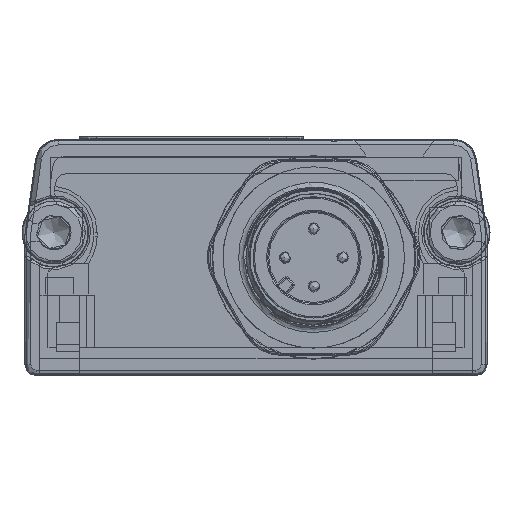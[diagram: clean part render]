
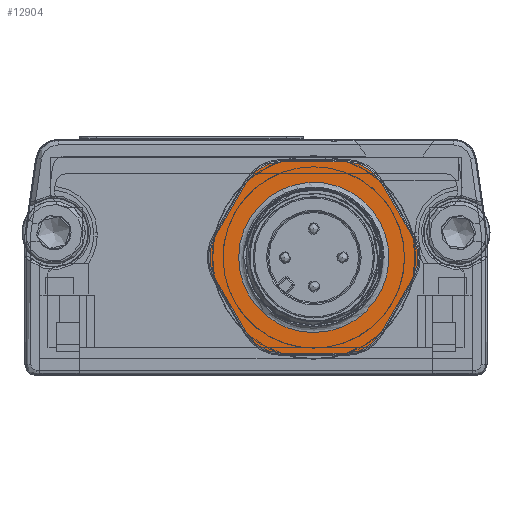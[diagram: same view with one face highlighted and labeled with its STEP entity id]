
A CAD part, front view. The second image highlights one B-rep face of the part: STEP entity #12904.
In plain terms, the highlighted planar face has unit normal (0, -1, 0).
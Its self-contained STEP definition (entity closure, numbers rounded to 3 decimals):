
#168=FACE_BOUND('',#2375,.T.);
#754=CIRCLE('',#13980,6.5);
#755=CIRCLE('',#13981,6.5);
#784=CIRCLE('',#14034,3.6);
#789=CIRCLE('',#14041,3.6);
#792=CIRCLE('',#14046,3.6);
#795=CIRCLE('',#14051,3.6);
#799=CIRCLE('',#14057,3.6);
#803=CIRCLE('',#14063,3.6);
#1089=PLANE('',#14070);
#1670=FACE_OUTER_BOUND('',#2374,.T.);
#2374=EDGE_LOOP('',(#10683,#10684,#10685,#10686,#10687,#10688,#10689,#10690,
#10691,#10692,#10693,#10694));
#2375=EDGE_LOOP('',(#10695,#10696));
#3550=LINE('',#24837,#4567);
#3551=LINE('',#24845,#4568);
#3552=LINE('',#24853,#4569);
#3553=LINE('',#24861,#4570);
#3555=LINE('',#24873,#4572);
#3556=LINE('',#24881,#4573);
#4567=VECTOR('',#16912,10.);
#4568=VECTOR('',#16923,10.);
#4569=VECTOR('',#16934,10.);
#4570=VECTOR('',#16945,10.);
#4572=VECTOR('',#16959,10.);
#4573=VECTOR('',#16970,10.);
#5683=VERTEX_POINT('',#23209);
#5684=VERTEX_POINT('',#23211);
#5718=VERTEX_POINT('',#24826);
#5719=VERTEX_POINT('',#24828);
#5721=VERTEX_POINT('',#24834);
#5722=VERTEX_POINT('',#24839);
#5723=VERTEX_POINT('',#24843);
#5724=VERTEX_POINT('',#24847);
#5725=VERTEX_POINT('',#24851);
#5726=VERTEX_POINT('',#24855);
#5727=VERTEX_POINT('',#24859);
#5728=VERTEX_POINT('',#24863);
#5730=VERTEX_POINT('',#24869);
#5732=VERTEX_POINT('',#24875);
#7338=EDGE_CURVE('',#5683,#5684,#754,.T.);
#7339=EDGE_CURVE('',#5684,#5683,#755,.T.);
#7405=EDGE_CURVE('',#5718,#5719,#784,.T.);
#7410=EDGE_CURVE('',#5719,#5721,#3550,.T.);
#7412=EDGE_CURVE('',#5721,#5722,#789,.T.);
#7414=EDGE_CURVE('',#5722,#5723,#3551,.T.);
#7416=EDGE_CURVE('',#5723,#5724,#792,.T.);
#7418=EDGE_CURVE('',#5724,#5725,#3552,.T.);
#7420=EDGE_CURVE('',#5725,#5726,#795,.T.);
#7422=EDGE_CURVE('',#5726,#5727,#3553,.T.);
#7425=EDGE_CURVE('',#5727,#5728,#799,.T.);
#7428=EDGE_CURVE('',#5728,#5730,#3555,.T.);
#7431=EDGE_CURVE('',#5730,#5732,#803,.T.);
#7432=EDGE_CURVE('',#5732,#5718,#3556,.T.);
#10683=ORIENTED_EDGE('',*,*,#7405,.F.);
#10684=ORIENTED_EDGE('',*,*,#7432,.F.);
#10685=ORIENTED_EDGE('',*,*,#7431,.F.);
#10686=ORIENTED_EDGE('',*,*,#7428,.F.);
#10687=ORIENTED_EDGE('',*,*,#7425,.F.);
#10688=ORIENTED_EDGE('',*,*,#7422,.F.);
#10689=ORIENTED_EDGE('',*,*,#7420,.F.);
#10690=ORIENTED_EDGE('',*,*,#7418,.F.);
#10691=ORIENTED_EDGE('',*,*,#7416,.F.);
#10692=ORIENTED_EDGE('',*,*,#7414,.F.);
#10693=ORIENTED_EDGE('',*,*,#7412,.F.);
#10694=ORIENTED_EDGE('',*,*,#7410,.F.);
#10695=ORIENTED_EDGE('',*,*,#7339,.F.);
#10696=ORIENTED_EDGE('',*,*,#7338,.F.);
#12904=ADVANCED_FACE('',(#1670,#168),#1089,.T.);
#13980=AXIS2_PLACEMENT_3D('',#23212,#16769,#16770);
#13981=AXIS2_PLACEMENT_3D('',#23213,#16771,#16772);
#14034=AXIS2_PLACEMENT_3D('',#24829,#16901,#16902);
#14041=AXIS2_PLACEMENT_3D('',#24841,#16917,#16918);
#14046=AXIS2_PLACEMENT_3D('',#24849,#16928,#16929);
#14051=AXIS2_PLACEMENT_3D('',#24857,#16939,#16940);
#14057=AXIS2_PLACEMENT_3D('',#24867,#16952,#16953);
#14063=AXIS2_PLACEMENT_3D('',#24879,#16966,#16967);
#14070=AXIS2_PLACEMENT_3D('',#24893,#16987,#16988);
#16769=DIRECTION('center_axis',(0.,-1.,0.));
#16770=DIRECTION('ref_axis',(0.,0.,
1.));
#16771=DIRECTION('center_axis',(0.,-1.,0.));
#16772=DIRECTION('ref_axis',(0.,0.,
1.));
#16901=DIRECTION('center_axis',(0.,1.,0.));
#16902=DIRECTION('ref_axis',(-0.5,0.,-0.866));
#16912=DIRECTION('',(-0.5,0.,0.866));
#16917=DIRECTION('center_axis',(0.,1.,0.));
#16918=DIRECTION('ref_axis',(-1.,0.,0.));
#16923=DIRECTION('',(0.5,0.,0.866));
#16928=DIRECTION('center_axis',(0.,1.,0.));
#16929=DIRECTION('ref_axis',(-0.5,0.,0.866));
#16934=DIRECTION('',(1.,0.,0.));
#16939=DIRECTION('center_axis',(0.,1.,0.));
#16940=DIRECTION('ref_axis',(0.5,0.,0.866));
#16945=DIRECTION('',(0.5,0.,-0.866));
#16952=DIRECTION('center_axis',(0.,1.,0.));
#16953=DIRECTION('ref_axis',(1.,0.,0.));
#16959=DIRECTION('',(-0.5,0.,-0.866));
#16966=DIRECTION('center_axis',(0.,1.,0.));
#16967=DIRECTION('ref_axis',(0.5,0.,-0.866));
#16970=DIRECTION('',(-1.,0.,0.));
#16987=DIRECTION('center_axis',(0.,-1.,0.));
#16988=DIRECTION('ref_axis',(-1.,0.,0.));
#23209=CARTESIAN_POINT('',(2.986,-12.9,-8.973));
#23211=CARTESIAN_POINT('',(9.486,-12.9,-15.473));
#23212=CARTESIAN_POINT('Origin',(9.486,-12.9,-8.973));
#23213=CARTESIAN_POINT('Origin',(9.486,-12.9,-8.973));
#24826=CARTESIAN_POINT('',(6.773,-12.9,-17.273));
#24828=CARTESIAN_POINT('',(3.655,-12.9,-15.473));
#24829=CARTESIAN_POINT('Origin',(6.773,-12.9,-13.673));
#24834=CARTESIAN_POINT('',(0.941,-12.9,-10.773));
#24837=CARTESIAN_POINT('',(1.071,-12.9,-10.998));
#24839=CARTESIAN_POINT('',(0.941,-12.9,-7.173));
#24841=CARTESIAN_POINT('Origin',(4.059,-12.9,-8.973));
#24843=CARTESIAN_POINT('',(3.655,-12.9,-2.473));
#24845=CARTESIAN_POINT('',(3.525,-12.9,-2.698));
#24847=CARTESIAN_POINT('',(6.773,-12.9,-0.673));
#24849=CARTESIAN_POINT('Origin',(6.773,-12.9,-4.273));
#24851=CARTESIAN_POINT('',(12.2,-12.9,-0.673));
#24853=CARTESIAN_POINT('',(11.94,-12.9,-0.673));
#24855=CARTESIAN_POINT('',(15.317,-12.9,-2.473));
#24857=CARTESIAN_POINT('Origin',(12.2,-12.9,-4.273));
#24859=CARTESIAN_POINT('',(18.031,-12.9,-7.173));
#24861=CARTESIAN_POINT('',(17.901,-12.9,-6.948));
#24863=CARTESIAN_POINT('',(18.031,-12.9,-10.773));
#24867=CARTESIAN_POINT('Origin',(14.913,-12.9,-8.973));
#24869=CARTESIAN_POINT('',(15.317,-12.9,-15.473));
#24873=CARTESIAN_POINT('',(15.447,-12.9,-15.248));
#24875=CARTESIAN_POINT('',(12.2,-12.9,-17.273));
#24879=CARTESIAN_POINT('Origin',(12.2,-12.9,-13.673));
#24881=CARTESIAN_POINT('',(7.032,-12.9,-17.273));
#24893=CARTESIAN_POINT('Origin',(9.486,-12.9,-8.973));
